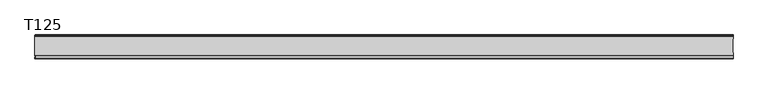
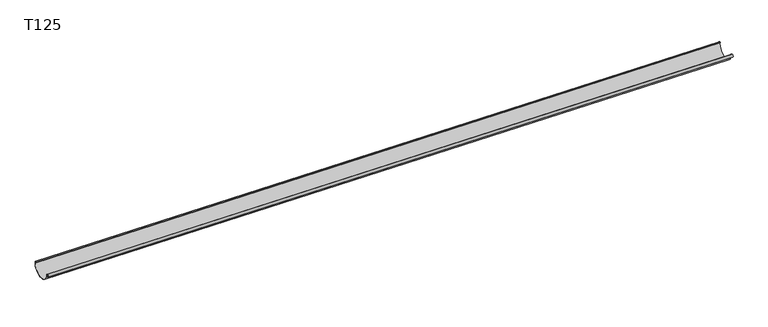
"""IFC4 building model written with IfcOpenShell, lengths in millimetres: proxy geometry, GROVIK_Gutter_Straight : T125."""

from ifc_helpers import new_model, si_unit, point, frame, frame_2d, origin, place, context, project, spatial, polyline, circle_curve, trimmed, segment, composite_curve, outline, extrude, source, transform, mapped, element, save


def t125_6f816af3(model_context):
    return source(origin(), model_context, "Body", "SweptSolid", [
        extrude(outline(composite_curve([segment(polyline([(8.9782044, -4.0843749), (8.0218996, -4.3767466), (7.7286985, -3.417729)]), True, "CONTINUOUS"), segment(trimmed(circle_curve(frame_2d((6.7723938, -3.7101007)), 1.0), [point((7.7286985, -3.417729))], [point((7.1144139, -2.7704081))], True, "CARTESIAN"), True, "CONTINUOUS"), segment(polyline([(7.1144139, -2.7704081), (2.4159508, -1.0603074)]), True, "CONTINUOUS"), segment(trimmed(circle_curve(frame_2d((2.0739306, -2.0)), 1.0), [point((2.4159508, -1.0603074))], [point((1.0741356, -2.0202437))], True, "CARTESIAN"), True, "CONTINUOUS"), segment(trimmed(circle_curve(frame_2d((62.5373106, -5.0399642)), 61.5373106), [point((1.0741356, -2.0202437))], [point((123.7665472, -11.1898564))], True, "CARTESIAN"), True, "CONTINUOUS"), segment(trimmed(circle_curve(frame_2d((132.3230203, -12.0492723)), 8.5995249), [point((123.7665472, -11.1898564))], [point((133.6266643, -20.54941))], False, "CARTESIAN"), True, "CONTINUOUS"), segment(trimmed(circle_curve(frame_2d((133.3234851, -18.572593)), 1.9999308), [point((133.6266643, -20.54941))], [point((131.3235543, -18.572593))], False, "CARTESIAN"), True, "CONTINUOUS"), segment(polyline([(131.3235543, -18.572593), (131.3235543, -12.0487098), (132.3235543, -12.0487098), (132.3235543, -18.572593)]), True, "CONTINUOUS"), segment(trimmed(circle_curve(frame_2d((133.3234851, -18.572593)), 0.9999308), [point((132.3235543, -18.572593))], [point((133.4750695, -19.5609673))], True, "CARTESIAN"), True, "CONTINUOUS"), segment(trimmed(circle_curve(frame_2d((132.3230203, -12.0492723)), 7.5995249), [point((133.4750695, -19.5609673))], [point((124.7615409, -11.2897939))], True, "CARTESIAN"), True, "CONTINUOUS"), segment(trimmed(circle_curve(frame_2d((62.5373106, -5.0399642)), 62.5373106), [point((124.7615409, -11.2897939))], [point((0.0739306, -2.0))], False, "CARTESIAN"), True, "CONTINUOUS"), segment(trimmed(circle_curve(frame_2d((2.0739306, -2.0)), 2.0), [point((0.0739306, -2.0))], [point((2.7579709, -0.1206147))], False, "CARTESIAN"), True, "CONTINUOUS"), segment(polyline([(2.7579709, -0.1206147), (7.456434, -1.8307154)]), True, "CONTINUOUS"), segment(trimmed(circle_curve(frame_2d((6.7723938, -3.7101007)), 2.0), [point((7.456434, -1.8307154))], [point((8.6850033, -3.1253574))], False, "CARTESIAN"), True, "CONTINUOUS"), segment(polyline([(8.6850033, -3.1253574), (8.9782044, -4.0843749)]), True, "CONTINUOUS")], self_intersect=False)), frame((4240.0, 0.0, -41.2), z_axis=(-0.9999500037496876, 0.0, 0.009999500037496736), x_axis=(0.0, -1.0, 0.0)), (0.0, 0.0, 1.0), 4120.2059949),
    ])


if __name__ == "__main__":
    model = new_model("IFC4")
    model_context = context("Model", 3, world=origin())
    ifc_project = project(units=[si_unit("LENGTHUNIT", "METRE", prefix="MILLI")], contexts=[model_context])
    site = spatial("IfcSite", under=ifc_project)
    building = spatial("IfcBuilding", under=site)
    placement = place(None, origin())
    t125_shape = t125_6f816af3(model_context)
    element("IfcBuildingElementProxy", 1, Name="GROVIK_Gutter_Straight : T125", ObjectType="GROVIK_Gutter_Straight : T125", at=placement, inside=building, context=model_context, shape_type="MappedRepresentation", body=[
        mapped(t125_shape, transform((0.0, 0.0, 0.0), x_axis=(1.0, 0.0, 0.0), y_axis=(0.0, 1.0, 0.0), z_axis=(0.0, 0.0, 1.0))),
    ])
    save(model, "model.ifc")
